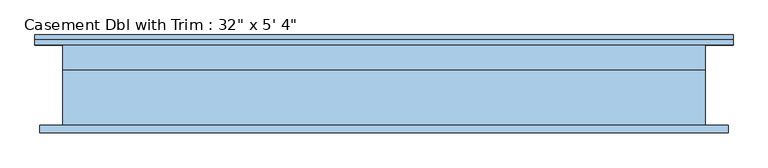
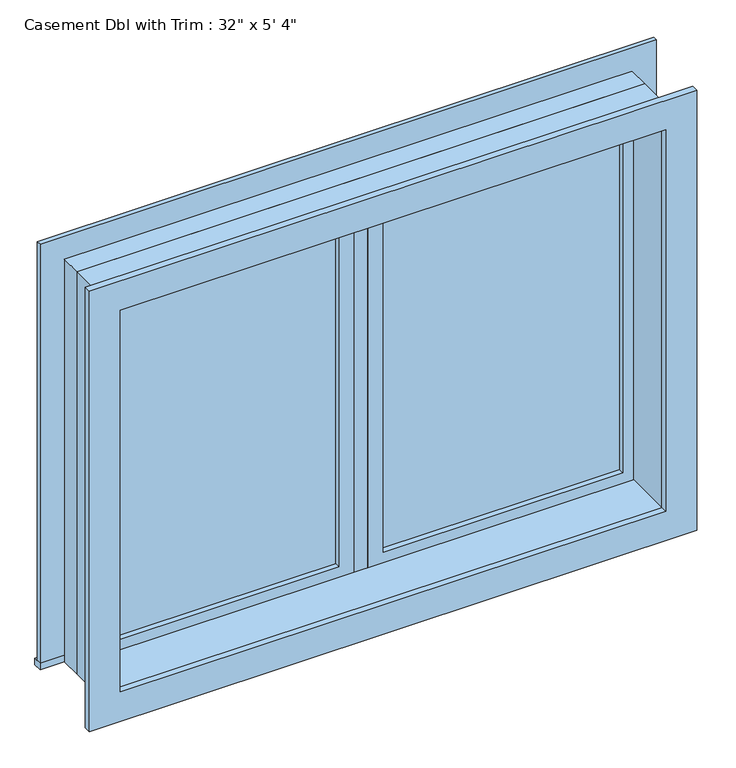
"""IFC4 building model written with IfcOpenShell, lengths in millimetres: window geometry."""

import ifcopenshell
import ifcopenshell.guid

model = None  # the IFC model being written
_history = None  # IfcOwnerHistory: only IFC2X3 demands one
_inside = {}  # id of a spatial element -> (the spatial element, [elements in it])
_under = {}  # id of a project, library or spatial element -> (it, [spatial elements below it])
_declared = {}  # id of a project -> (the project, [libraries it declares])
_typed = {}  # id of a type object -> (the type object, [elements of that type])
_made_of = {}  # id of a material, layer set ... -> (it, [elements and type objects made of it])


def new_model(schema):
    """Start an empty IFC model of exactly this schema.

    Asked for "IFC4X3", IfcOpenShell would pick the latest addendum, in which some entities
    have other attributes; the version numbers below select the first issue.
    IFC2X3 requires an IfcOwnerHistory on every rooted entity: one is made here for all.
    """
    global model, _history
    if schema == "IFC4X3":
        model = ifcopenshell.file(schema_version=(4, 3, 0, 0))
    else:
        model = ifcopenshell.file(schema=schema)
    _inside.clear()
    _under.clear()
    _declared.clear()
    _typed.clear()
    _made_of.clear()
    _history = None
    if model.schema == "IFC2X3":
        org = make("IfcOrganization", Name="unknown")
        user = make(
            "IfcPersonAndOrganization",
            ThePerson=make("IfcPerson", FamilyName="unknown"),
            TheOrganization=org,
        )
        app = make(
            "IfcApplication",
            ApplicationDeveloper=org,
            Version="unknown",
            ApplicationFullName="unknown",
            ApplicationIdentifier="unknown",
        )
        _history = make(
            "IfcOwnerHistory",
            OwningUser=user,
            OwningApplication=app,
            ChangeAction="ADDED",
            CreationDate=0,
        )
    return model


def make(cls, **values):
    """One entity of the class cls with the attributes given. An attribute that is None is left unset."""
    return model.create_entity(
        cls, **{name: value for name, value in values.items() if value is not None}
    )


def rooted(cls, **values):
    """An entity with a GlobalId (a new one), such as an element, a storey or a relation."""
    return make(cls, GlobalId=ifcopenshell.guid.new(), OwnerHistory=_history, **values)


def si_unit(unit_type, name, prefix=None):
    """IfcSIUnit, for example si_unit("LENGTHUNIT", "METRE", prefix="MILLI")."""
    return make("IfcSIUnit", UnitType=unit_type, Prefix=prefix, Name=name)


def assignment(units):
    """IfcUnitAssignment: the units of a project."""
    return None if units is None else make("IfcUnitAssignment", Units=units)


def point(xyz):
    """IfcCartesianPoint."""
    return None if xyz is None else make("IfcCartesianPoint", Coordinates=xyz)


def direction(xyz):
    """IfcDirection."""
    return None if xyz is None else make("IfcDirection", DirectionRatios=xyz)


def frame(location, z_axis=None, x_axis=None):
    """IfcAxis2Placement3D, a coordinate frame: its origin and axes. An axis left out is left unset."""
    return make(
        "IfcAxis2Placement3D",
        Location=point(location),
        Axis=direction(z_axis),
        RefDirection=direction(x_axis),
    )


def origin():
    """The frame at (0, 0, 0) with its axes left unset."""
    return frame((0.0, 0.0, 0.0))


def place(relative_to, where):
    """IfcLocalPlacement: puts the frame where relative to a parent placement (None: the world)."""
    return make(
        "IfcLocalPlacement", PlacementRelTo=relative_to, RelativePlacement=where
    )


def context(
    kind, dimensions, precision=None, world=None, true_north=None, identifier=None
):
    """IfcGeometricRepresentationContext, for example the 3D "Model" context."""
    return make(
        "IfcGeometricRepresentationContext",
        ContextIdentifier=identifier,
        ContextType=kind,
        CoordinateSpaceDimension=dimensions,
        Precision=precision,
        WorldCoordinateSystem=world,
        TrueNorth=true_north,
    )


def project(units=None, contexts=None):
    """IfcProject with its units and contexts."""
    return rooted(
        "IfcProject",
        Name="project",
        RepresentationContexts=contexts,
        UnitsInContext=assignment(units),
    )


def spatial(cls, under=None, at=None, **own):
    """A site, building, storey or space (cls), placed at a placement, below another one or the project."""
    s = rooted(cls, ObjectPlacement=at, **own)
    if under is not None:
        _under.setdefault(under.id(), (under, []))[1].append(s)
    return s


def polyline(points):
    """IfcPolyline through the points."""
    return make("IfcPolyline", Points=[point(p) for p in points])


def outline(outer, holes=None, kind="AREA"):
    """IfcArbitraryClosedProfileDef: a profile drawn as a closed curve; with holes, ...WithVoids."""
    if holes is None:
        return make("IfcArbitraryClosedProfileDef", ProfileType=kind, OuterCurve=outer)
    return make(
        "IfcArbitraryProfileDefWithVoids",
        ProfileType=kind,
        OuterCurve=outer,
        InnerCurves=holes,
    )


def extrude(swept, where, along, depth):
    """IfcExtrudedAreaSolid: the profile swept, set in the frame where, extruded along a direction by depth."""
    return make(
        "IfcExtrudedAreaSolid",
        SweptArea=swept,
        Position=where,
        ExtrudedDirection=direction(along),
        Depth=depth,
    )


def shape(context_of_items, identifier, shape_type, items):
    """IfcShapeRepresentation: the items that make up one representation, for example the "Body"."""
    return make(
        "IfcShapeRepresentation",
        ContextOfItems=context_of_items,
        RepresentationIdentifier=identifier,
        RepresentationType=shape_type,
        Items=items,
    )


def source(mapping_origin, context_of_items, identifier, shape_type, items):
    """IfcRepresentationMap: a shape defined once, which mapped items show again and again."""
    return make(
        "IfcRepresentationMap",
        MappingOrigin=mapping_origin,
        MappedRepresentation=shape(context_of_items, identifier, shape_type, items),
    )


def transform(
    local_origin,
    x_axis=None,
    y_axis=None,
    z_axis=None,
    scale=None,
    scale2=None,
    scale3=None,
    uniform=True,
):
    """IfcCartesianTransformationOperator3D, or its non-uniform kind. x_axis, y_axis, z_axis: its Axis1, 2, 3."""
    if uniform:
        return make(
            "IfcCartesianTransformationOperator3D",
            Axis1=direction(x_axis),
            Axis2=direction(y_axis),
            LocalOrigin=point(local_origin),
            Scale=scale,
            Axis3=direction(z_axis),
        )
    return make(
        "IfcCartesianTransformationOperator3DnonUniform",
        Axis1=direction(x_axis),
        Axis2=direction(y_axis),
        LocalOrigin=point(local_origin),
        Scale=scale,
        Axis3=direction(z_axis),
        Scale2=scale2,
        Scale3=scale3,
    )


def mapped(mapping_source, mapping_target):
    """IfcMappedItem: shows the shape of a source again, moved by a transform."""
    return make(
        "IfcMappedItem", MappingSource=mapping_source, MappingTarget=mapping_target
    )


def made_of(thing, what):
    """Note that an element or type object is made of a material, layer set ...; save() writes the relation."""
    if what is not None:
        _made_of.setdefault(what.id(), (what, []))[1].append(thing)
    return thing


def element(
    cls,
    number,
    at=None,
    inside=None,
    cuts=None,
    type_object=None,
    material=None,
    context=None,
    identifier="Body",
    shape_type=None,
    held_by="IfcProductDefinitionShape",
    body=None,
    shapes=None,
    **own,
):
    """One element of the class cls, such as IfcWall. Its Tag is "e" and its number.

    at: its placement. inside: the storey or other place that contains it. cuts: it is an
    opening in that element (IfcRelVoidsElement). A single representation is given by context,
    identifier, shape_type and body (its items); several are given by shapes. held_by: the class
    of the entity that holds the representations. save() writes the other relations.
    """
    e = rooted(cls, Tag="e%d" % number, ObjectPlacement=at, **own)
    if body is not None:
        shapes = [shape(context, identifier, shape_type, body)]
    if shapes is not None:
        e.Representation = make(held_by, Representations=shapes)
    if inside is not None:
        _inside.setdefault(inside.id(), (inside, []))[1].append(e)
    if cuts is not None:
        rooted(
            "IfcRelVoidsElement", RelatingBuildingElement=cuts, RelatedOpeningElement=e
        )
    if type_object is not None:
        _typed.setdefault(type_object.id(), (type_object, []))[1].append(e)
    return made_of(e, material)


def aggregate(whole, parts):
    """IfcRelAggregates: a whole, such as a stair, and the parts it consists of."""
    return rooted("IfcRelAggregates", RelatingObject=whole, RelatedObjects=parts)


def save(model, path):
    """Write the relations noted so far, then the file.

    IfcRelAggregates (storeys below a building ...), IfcRelContainedInSpatialStructure (elements
    in a storey), IfcRelDefinesByType, IfcRelAssociatesMaterial and IfcRelDeclares: one each for
    every whole, place, type object, material and project.
    """
    for whole, parts in _under.values():
        aggregate(whole, parts)
    for where, things in _inside.values():
        rooted(
            "IfcRelContainedInSpatialStructure",
            RelatedElements=things,
            RelatingStructure=where,
        )
    for kind, things in _typed.values():
        rooted("IfcRelDefinesByType", RelatedObjects=things, RelatingType=kind)
    for what, things in _made_of.values():
        rooted("IfcRelAssociatesMaterial", RelatedObjects=things, RelatingMaterial=what)
    for by, libraries in _declared.values():
        rooted("IfcRelDeclares", RelatingContext=by, RelatedDefinitions=libraries)
    model.write(path)


def window_e9b29f34(model_context):
    return source(origin(), model_context, "Body", "SweptSolid", [
        extrude(outline(polyline([(63.5, 85.725), (749.3, 85.725), (749.3, 73.025), (63.5, 73.025), (63.5, 85.725)])), frame((0.0, 0.0, 977.9), z_axis=(0.0, 0.0, 1.0), x_axis=(1.0, 0.0, 0.0)), (0.0, 0.0, 1.0), 1092.2),
        extrude(outline(polyline([(2114.55, 19.05), (933.45, 19.05), (933.45, 793.75), (2114.55, 793.75), (2114.55, 19.05)]), holes=[polyline([(2070.1, 63.5), (2070.1, 749.3), (977.9, 749.3), (977.9, 63.5), (2070.1, 63.5)])]), frame((0.0, 57.15, 0.0), z_axis=(0.0, 1.0, 0.0), x_axis=(0.0, 0.0, 1.0)), (0.0, 0.0, 1.0), 44.45),
        extrude(outline(polyline([(19.05, 57.15), (-19.05, 57.15), (-19.05, 120.65), (19.05, 120.65), (19.05, 57.15)])), frame((0.0, 0.0, 933.45), z_axis=(0.0, 0.0, 1.0), x_axis=(1.0, 0.0, 0.0)), (0.0, 0.0, 1.0), 1181.1),
        extrude(outline(polyline([(-882.65, 146.05), (882.65, 146.05), (882.65, 120.65), (-882.65, 120.65), (-882.65, 146.05)])), frame((0.0, 0.0, 914.4), z_axis=(0.0, 0.0, 1.0), x_axis=(1.0, 0.0, 0.0)), (0.0, 0.0, 1.0), 19.05),
        extrude(outline(polyline([(2114.55, -793.75), (2114.55, 793.75), (933.45, 793.75), (933.45, 882.65), (2203.45, 882.65), (2203.45, -882.65), (933.45, -882.65), (933.45, -793.75), (2114.55, -793.75)])), frame((0.0, 120.65, 0.0), z_axis=(0.0, 1.0, 0.0), x_axis=(0.0, 0.0, 1.0)), (0.0, 0.0, 1.0), 12.7),
        extrude(outline(polyline([(2190.75, 869.95), (2190.75, -869.95), (857.25, -869.95), (857.25, 869.95), (2190.75, 869.95)]), holes=[polyline([(2101.85, 781.05), (946.15, 781.05), (946.15, -781.05), (2101.85, -781.05), (2101.85, 781.05)])]), frame((0.0, -101.6, 0.0), z_axis=(0.0, 1.0, 0.0), x_axis=(0.0, 0.0, 1.0)), (0.0, 0.0, 1.0), 19.05),
        extrude(outline(polyline([(-63.5, 73.025), (-749.3, 73.025), (-749.3, 85.725), (-63.5, 85.725), (-63.5, 73.025)])), frame((0.0, 0.0, 977.9), z_axis=(0.0, 0.0, 1.0), x_axis=(1.0, 0.0, 0.0)), (0.0, 0.0, 1.0), 1092.2),
        extrude(outline(polyline([(2114.55, -793.75), (933.45, -793.75), (933.45, -19.05), (2114.55, -19.05), (2114.55, -793.75)]), holes=[polyline([(2070.1, -749.3), (2070.1, -63.5), (977.9, -63.5), (977.9, -749.3), (2070.1, -749.3)])]), frame((0.0, 57.15, 0.0), z_axis=(0.0, 1.0, 0.0), x_axis=(0.0, 0.0, 1.0)), (0.0, 0.0, 1.0), 44.45),
        extrude(outline(polyline([(2133.6, -812.8), (914.4, -812.8), (914.4, 812.8), (2133.6, 812.8), (2133.6, -812.8)]), holes=[polyline([(2101.85, -781.05), (2101.85, 781.05), (946.15, 781.05), (946.15, -781.05), (2101.85, -781.05)])]), frame((0.0, -82.55, 0.0), z_axis=(0.0, 1.0, 0.0), x_axis=(0.0, 0.0, 1.0)), (0.0, 0.0, 1.0), 139.7),
        extrude(outline(polyline([(2133.6, 812.8), (2133.6, -812.8), (914.4, -812.8), (914.4, 812.8), (2133.6, 812.8)]), holes=[polyline([(2114.55, 793.75), (933.45, 793.75), (933.45, -793.75), (2114.55, -793.75), (2114.55, 793.75)])]), frame((0.0, 57.15, 0.0), z_axis=(0.0, 1.0, 0.0), x_axis=(0.0, 0.0, 1.0)), (0.0, 0.0, 1.0), 63.5),
    ])


if __name__ == "__main__":
    model = new_model("IFC4")
    model_context = context("Model", 3, world=origin())
    ifc_project = project(units=[si_unit("LENGTHUNIT", "METRE", prefix="MILLI")], contexts=[model_context])
    site = spatial("IfcSite", under=ifc_project)
    building = spatial("IfcBuilding", under=site)
    placement = place(None, origin())
    window_shape = window_e9b29f34(model_context)
    element("IfcWindow", 1, ObjectType="Casement Dbl with Trim : 32\" x 5' 4\"", at=placement, inside=building, context=model_context, shape_type="MappedRepresentation", body=[
        mapped(window_shape, transform((0.0, 0.0, 0.0), x_axis=(1.0, 0.0, 0.0), y_axis=(0.0, 1.0, 0.0), z_axis=(0.0, 0.0, 1.0))),
    ])
    save(model, "model.ifc")
